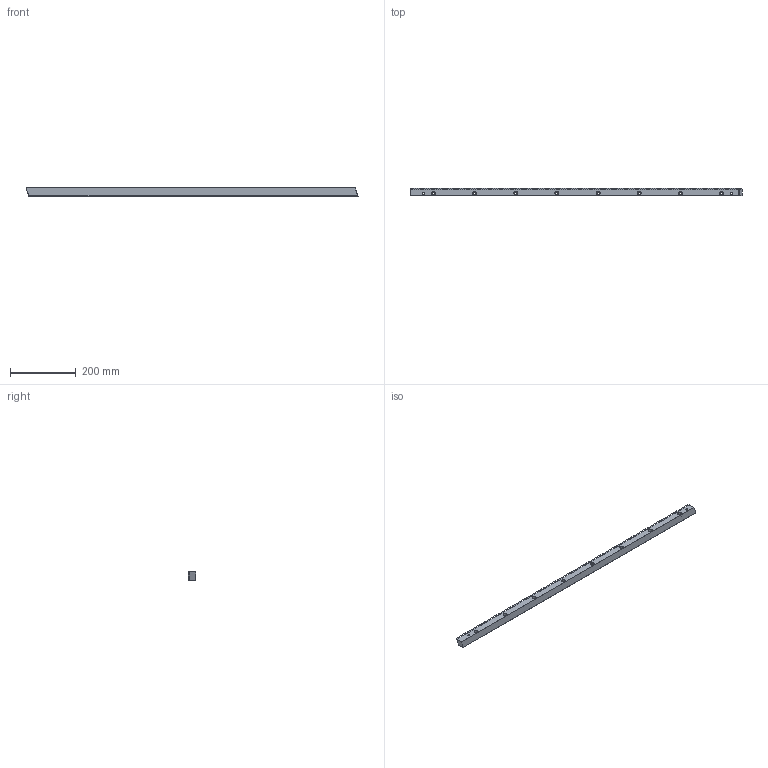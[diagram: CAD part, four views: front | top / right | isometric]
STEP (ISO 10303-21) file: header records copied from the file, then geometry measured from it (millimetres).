
FILE_DESCRIPTION((''),'2;1');
FILE_NAME('P2320208150','2017-02-20T',('d01943'),(''),'PRO/ENGINEER BY PARAMETRIC TECHNOLOGY CORPORATION, 2008410','PRO/ENGINEER BY PARAMETRIC TECHNOLOGY CORPORATION, 2008410','');
FILE_SCHEMA(('CONFIG_CONTROL_DESIGN'));
Length unit declared in the file: millimetre
Products named in the file (1): P2320208150
Bounding box: 1008.64 x 24 x 26 mm (x, y, z)
Volume: 557262 mm3; surface area: 127683 mm2
Topology: 1 solids, 1 shells, 700 faces, 2024 edges, 1334 vertices
Faces by surface type: plane 624, cone 40, cylinder 36
Entity records: 22650 total; most frequent: CARTESIAN_POINT 4058, ORIENTED_EDGE 4048, DIRECTION 3536, EDGE_CURVE 2024, VECTOR 1912, LINE 1912, VERTEX_POINT 1334, AXIS2_PLACEMENT_3D 812
